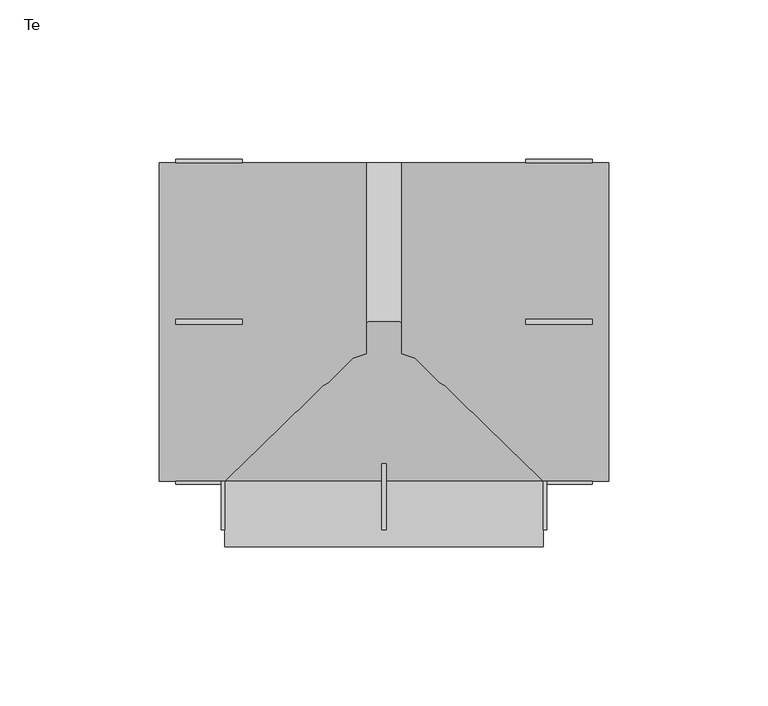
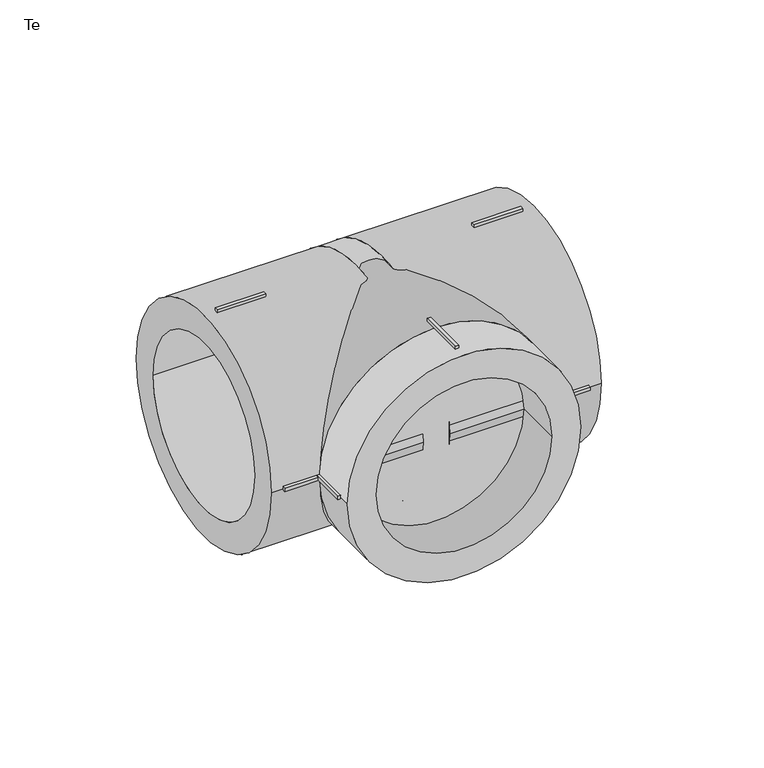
"""IFC4 building model written with IfcOpenShell, lengths in millimetres: pipe fitting geometry, EGB_VASEN_ PPR_Te WXR300_Te reducida WXR310 : Te."""

from ifc_helpers import new_model, si_unit, point, frame, origin, origin_2d, place, context, project, spatial, polyline, circle_curve, trimmed, segment, composite_curve, outline, extrude, source, transform, mapped, element, save


def te_205f9c73(model_context):
    return source(origin(), model_context, "Body", "SweptSolid", [
        extrude(outline(polyline([(-0.75, -44.5), (0.75, -44.5), (0.75, -65.3), (-0.75, -65.3), (-0.75, -44.5)])), frame((0.0, 0.0, 49.0), z_axis=(0.0, 0.0, 1.0), x_axis=(1.0, 0.0, 0.0)), (0.0, 0.0, 1.0), 2.0),
        extrude(outline(polyline([(-0.75, -44.5), (0.75, -44.5), (0.75, -65.3), (-0.75, -65.3), (-0.75, -44.5)])), frame((0.0, 0.0, -51.0), z_axis=(0.0, 0.0, 1.0), x_axis=(1.0, 0.0, 0.0)), (0.0, 0.0, 1.0), 2.0),
        extrude(outline(polyline([(49.0, -44.5), (51.0, -44.5), (51.0, -65.3), (49.0, -65.3), (49.0, -44.5)])), frame((0.0, 0.0, -0.75), z_axis=(0.0, 0.0, 1.0), x_axis=(1.0, 0.0, 0.0)), (0.0, 0.0, 1.0), 1.5),
        extrude(outline(polyline([(-51.0, -44.5), (-49.0, -44.5), (-49.0, -65.3), (-51.0, -65.3), (-51.0, -44.5)])), frame((0.0, 0.0, -0.75), z_axis=(0.0, 0.0, 1.0), x_axis=(1.0, 0.0, 0.0)), (0.0, 0.0, 1.0), 1.5),
        extrude(outline(polyline([(44.5, -0.75), (44.5, 0.75), (65.3, 0.75), (65.3, -0.75), (44.5, -0.75)])), frame((0.0, 0.0, 49.0), z_axis=(0.0, 0.0, 1.0), x_axis=(1.0, 0.0, 0.0)), (0.0, 0.0, 1.0), 2.0),
        extrude(outline(polyline([(44.5, -0.75), (44.5, 0.75), (65.3, 0.75), (65.3, -0.75), (44.5, -0.75)])), frame((0.0, 0.0, -51.0), z_axis=(0.0, 0.0, 1.0), x_axis=(1.0, 0.0, 0.0)), (0.0, 0.0, 1.0), 2.0),
        extrude(outline(polyline([(44.5, 49.0), (44.5, 51.0), (65.3, 51.0), (65.3, 49.0), (44.5, 49.0)])), frame((0.0, 0.0, -0.75), z_axis=(0.0, 0.0, 1.0), x_axis=(1.0, 0.0, 0.0)), (0.0, 0.0, 1.0), 1.5),
        extrude(outline(polyline([(44.5, -51.0), (44.5, -49.0), (65.3, -49.0), (65.3, -51.0), (44.5, -51.0)])), frame((0.0, 0.0, -0.75), z_axis=(0.0, 0.0, 1.0), x_axis=(1.0, 0.0, 0.0)), (0.0, 0.0, 1.0), 1.5),
        extrude(outline(polyline([(-44.5, 0.75), (-44.5, -0.75), (-65.3, -0.75), (-65.3, 0.75), (-44.5, 0.75)])), frame((0.0, 0.0, 49.0), z_axis=(0.0, 0.0, 1.0), x_axis=(1.0, 0.0, 0.0)), (0.0, 0.0, 1.0), 2.0),
        extrude(outline(polyline([(-44.5, 0.75), (-44.5, -0.75), (-65.3, -0.75), (-65.3, 0.75), (-44.5, 0.75)])), frame((0.0, 0.0, -51.0), z_axis=(0.0, 0.0, 1.0), x_axis=(1.0, 0.0, 0.0)), (0.0, 0.0, 1.0), 2.0),
        extrude(outline(polyline([(-44.5, 51.0), (-44.5, 49.0), (-65.3, 49.0), (-65.3, 51.0), (-44.5, 51.0)])), frame((0.0, 0.0, -0.75), z_axis=(0.0, 0.0, 1.0), x_axis=(1.0, 0.0, 0.0)), (0.0, 0.0, 1.0), 1.5),
        extrude(outline(polyline([(-44.5, -49.0), (-44.5, -51.0), (-65.3, -51.0), (-65.3, -49.0), (-44.5, -49.0)])), frame((0.0, 0.0, -0.75), z_axis=(0.0, 0.0, 1.0), x_axis=(1.0, 0.0, 0.0)), (0.0, 0.0, 1.0), 1.5),
        extrude(outline(composite_curve([segment(trimmed(circle_curve(origin_2d(), 50.0), [point((0.0, 50.0))], [point((0.0, -50.0))], False, "CARTESIAN"), True, "CONTINUOUS"), segment(trimmed(circle_curve(origin_2d(), 50.0), [point((0.0, -50.0))], [point((0.0, 50.0))], False, "CARTESIAN"), True, "CONTINUOUS")], self_intersect=False), holes=[composite_curve([segment(trimmed(circle_curve(origin_2d(), 37.5), [point((0.0, 37.5))], [point((0.0, -37.5))], True, "CARTESIAN"), True, "CONTINUOUS"), segment(trimmed(circle_curve(origin_2d(), 37.5), [point((0.0, -37.5))], [point((0.0, 37.5))], True, "CARTESIAN"), True, "CONTINUOUS")], self_intersect=False)]), frame((0.0, -70.5, 0.0), z_axis=(0.0, 1.0, 0.0), x_axis=(0.0, 0.0, 1.0)), (0.0, 0.0, 1.0), 20.5),
        extrude(outline(composite_curve([segment(trimmed(circle_curve(origin_2d(), 50.0), [point((-50.0, 0.0))], [point((50.0, 0.0))], False, "CARTESIAN"), True, "CONTINUOUS"), segment(trimmed(circle_curve(origin_2d(), 50.0), [point((50.0, 0.0))], [point((-50.0, 0.0))], False, "CARTESIAN"), True, "CONTINUOUS")], self_intersect=False), holes=[composite_curve([segment(trimmed(circle_curve(origin_2d(), 37.5), [point((-37.5, 0.0))], [point((37.5, 0.0))], True, "CARTESIAN"), True, "CONTINUOUS"), segment(trimmed(circle_curve(origin_2d(), 37.5), [point((37.5, 0.0))], [point((-37.5, 0.0))], True, "CARTESIAN"), True, "CONTINUOUS")], self_intersect=False)]), frame((5.64, 0.0, 0.0), z_axis=(1.0, 0.0, 0.0), x_axis=(0.0, 1.0, 0.0)), (0.0, 0.0, 1.0), 64.86),
        extrude(outline(composite_curve([segment(trimmed(circle_curve(origin_2d(), 50.0), [point((-50.0, 0.0))], [point((50.0, 0.0))], False, "CARTESIAN"), True, "CONTINUOUS"), segment(trimmed(circle_curve(origin_2d(), 50.0), [point((50.0, 0.0))], [point((-50.0, 0.0))], False, "CARTESIAN"), True, "CONTINUOUS")], self_intersect=False), holes=[composite_curve([segment(trimmed(circle_curve(origin_2d(), 37.5), [point((-37.5, 0.0))], [point((37.5, 0.0))], True, "CARTESIAN"), True, "CONTINUOUS"), segment(trimmed(circle_curve(origin_2d(), 37.5), [point((37.5, 0.0))], [point((-37.5, 0.0))], True, "CARTESIAN"), True, "CONTINUOUS")], self_intersect=False)]), frame((-70.5, 0.0, 0.0), z_axis=(1.0, 0.0, 0.0), x_axis=(0.0, 1.0, 0.0)), (0.0, 0.0, 1.0), 64.86),
        extrude(outline(composite_curve([segment(trimmed(circle_curve(origin_2d(), 50.0), [point((0.0, 50.0))], [point((0.0, -50.0))], False, "CARTESIAN"), True, "CONTINUOUS"), segment(trimmed(circle_curve(origin_2d(), 50.0), [point((0.0, -50.0))], [point((0.0, 50.0))], False, "CARTESIAN"), True, "CONTINUOUS")], self_intersect=False)), frame((0.0, -50.0, 0.0), z_axis=(0.0, 1.0, 0.0), x_axis=(0.0, 0.0, 1.0)), (0.0, 0.0, 1.0), 50.0),
        extrude(outline(composite_curve([segment(trimmed(circle_curve(origin_2d(), 50.0), [point((-50.0, 0.0))], [point((50.0, 0.0))], False, "CARTESIAN"), True, "CONTINUOUS"), segment(trimmed(circle_curve(origin_2d(), 50.0), [point((50.0, 0.0))], [point((-50.0, 0.0))], False, "CARTESIAN"), True, "CONTINUOUS")], self_intersect=False)), frame((-5.64, 0.0, 0.0), z_axis=(1.0, 0.0, 0.0), x_axis=(0.0, 1.0, 0.0)), (0.0, 0.0, 1.0), 11.28),
    ])


if __name__ == "__main__":
    model = new_model("IFC4")
    model_context = context("Model", 3, world=origin())
    ifc_project = project(units=[si_unit("LENGTHUNIT", "METRE", prefix="MILLI")], contexts=[model_context])
    site = spatial("IfcSite", under=ifc_project)
    building = spatial("IfcBuilding", under=site)
    placement = place(None, origin())
    te_shape = te_205f9c73(model_context)
    element("IfcPipeFitting", 1, ObjectType="EGB_VASEN_ PPR_Te WXR300_Te reducida WXR310 : Te", at=placement, inside=building, context=model_context, shape_type="MappedRepresentation", body=[
        mapped(te_shape, transform((0.0, 0.0, 0.0), x_axis=(1.0, 0.0, 0.0), y_axis=(0.0, 1.0, 0.0), z_axis=(0.0, 0.0, 1.0))),
    ])
    save(model, "model.ifc")
